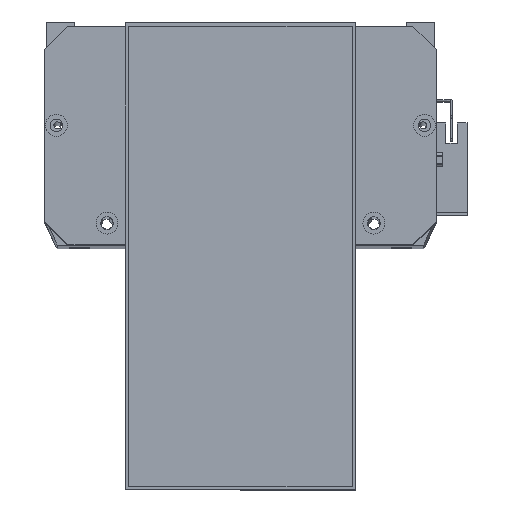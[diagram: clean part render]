
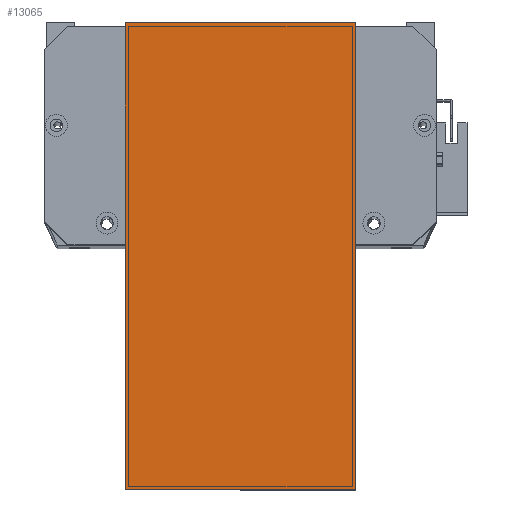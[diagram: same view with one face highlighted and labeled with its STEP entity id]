
A CAD part, top view. The second image highlights one B-rep face of the part: STEP entity #13065.
In plain terms, the highlighted planar face has unit normal (0, 0, 1) as drawn and (0, 0, -1) by its records, which use the part's own axes.
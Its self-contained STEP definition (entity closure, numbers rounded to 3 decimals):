
#535 = CARTESIAN_POINT ( 'NONE',  ( 0., 0., 0. ) ) ;
#762 = ORIENTED_EDGE ( 'NONE', *, *, #8812, .F. ) ;
#1344 = CARTESIAN_POINT ( 'NONE',  ( -12., 119.5, 0. ) ) ;
#2762 = DIRECTION ( 'NONE',  ( 0., 0., -1. ) ) ;
#3511 = DIRECTION ( 'NONE',  ( 0., 1., 0. ) ) ;
#8276 = VERTEX_POINT ( 'NONE', #28574 ) ;
#8646 = CARTESIAN_POINT ( 'NONE',  ( 0., 0., 0. ) ) ;
#8812 = EDGE_CURVE ( 'NONE', #14590, #10780, #27209, .T. ) ;
#10029 = EDGE_CURVE ( 'NONE', #8276, #14590, #14968, .T. ) ;
#10780 = VERTEX_POINT ( 'NONE', #21171 ) ;
#13065 = ADVANCED_FACE ( 'NONE', ( #22625 ), #27076, .T. ) ;
#13512 = LINE ( 'NONE', #1344, #24631 ) ;
#13563 = VECTOR ( 'NONE', #3511, 1000. ) ;
#14590 = VERTEX_POINT ( 'NONE', #20247 ) ;
#14602 = DIRECTION ( 'NONE',  ( 1., 0., 0. ) ) ;
#14968 = LINE ( 'NONE', #8646, #26790 ) ;
#15291 = ORIENTED_EDGE ( 'NONE', *, *, #18930, .T. ) ;
#15355 = DIRECTION ( 'NONE',  ( 1., 0., 0. ) ) ;
#16236 = EDGE_LOOP ( 'NONE', ( #762, #28623, #15291, #16501 ) ) ;
#16501 = ORIENTED_EDGE ( 'NONE', *, *, #25563, .F. ) ;
#18246 = DIRECTION ( 'NONE',  ( -1., 0., 0. ) ) ;
#18930 = EDGE_CURVE ( 'NONE', #8276, #27071, #13512, .T. ) ;
#19007 = CARTESIAN_POINT ( 'NONE',  ( 203., 0., 0. ) ) ;
#20247 = CARTESIAN_POINT ( 'NONE',  ( 0., 19.5, 0. ) ) ;
#21171 = CARTESIAN_POINT ( 'NONE',  ( 203., 19.5, 0. ) ) ;
#22244 = AXIS2_PLACEMENT_3D ( 'NONE', #535, #2762, #18246 ) ;
#22625 = FACE_OUTER_BOUND ( 'NONE', #16236, .T. ) ;
#24170 = DIRECTION ( 'NONE',  ( 0., -1., 0. ) ) ;
#24281 = CARTESIAN_POINT ( 'NONE',  ( -12., 19.5, 0. ) ) ;
#24631 = VECTOR ( 'NONE', #14602, 1000. ) ;
#24678 = LINE ( 'NONE', #19007, #13563 ) ;
#25563 = EDGE_CURVE ( 'NONE', #10780, #27071, #24678, .T. ) ;
#26790 = VECTOR ( 'NONE', #24170, 1000. ) ;
#27071 = VERTEX_POINT ( 'NONE', #27152 ) ;
#27076 = PLANE ( 'NONE',  #22244 ) ;
#27152 = CARTESIAN_POINT ( 'NONE',  ( 203., 119.5, 0. ) ) ;
#27209 = LINE ( 'NONE', #24281, #28580 ) ;
#28574 = CARTESIAN_POINT ( 'NONE',  ( 0., 119.5, 0. ) ) ;
#28580 = VECTOR ( 'NONE', #15355, 1000. ) ;
#28623 = ORIENTED_EDGE ( 'NONE', *, *, #10029, .F. ) ;
